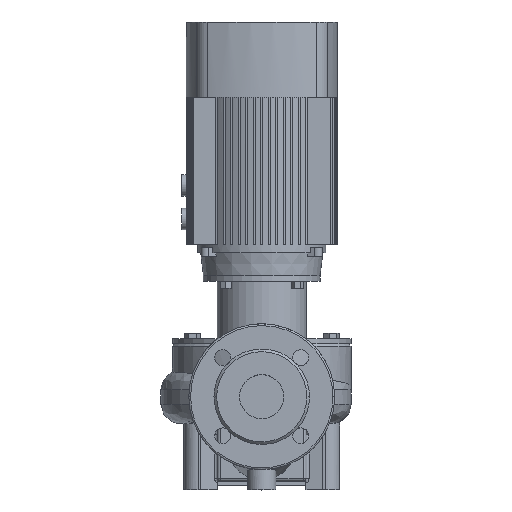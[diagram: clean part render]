
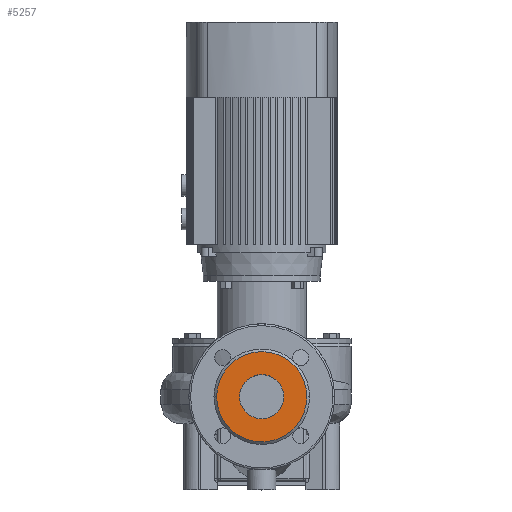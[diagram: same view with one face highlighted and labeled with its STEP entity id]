
A CAD part, top view. The second image highlights one B-rep face of the part: STEP entity #5257.
In plain terms, the highlighted planar face has unit normal (0, 0, 1).
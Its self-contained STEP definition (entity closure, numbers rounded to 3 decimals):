
#196 = CIRCLE ( 'NONE', #19956, 51. ) ;
#923 = CARTESIAN_POINT ( 'NONE',  ( 0., 51., 170. ) ) ;
#1064 = DIRECTION ( 'NONE',  ( 0., 0., -1. ) ) ;
#1304 = PLANE ( 'NONE',  #5958 ) ;
#1525 = DIRECTION ( 'NONE',  ( 1., 0., 0. ) ) ;
#1705 = EDGE_CURVE ( 'NONE', #2696, #15556, #21110, .T. ) ;
#1744 = DIRECTION ( 'NONE',  ( 1., 0., 0. ) ) ;
#1861 = AXIS2_PLACEMENT_3D ( 'NONE', #6360, #24275, #8342 ) ;
#2696 = VERTEX_POINT ( 'NONE', #5937 ) ;
#3311 = VERTEX_POINT ( 'NONE', #25979 ) ;
#3641 = DIRECTION ( 'NONE',  ( 0., 0., 1. ) ) ;
#5257 = ADVANCED_FACE ( 'NONE', ( #18839, #19215 ), #1304, .F. ) ;
#5937 = CARTESIAN_POINT ( 'NONE',  ( 25., 0., 170. ) ) ;
#5958 = AXIS2_PLACEMENT_3D ( 'NONE', #923, #1064, #15254 ) ;
#6360 = CARTESIAN_POINT ( 'NONE',  ( 0., 0., 170. ) ) ;
#7202 = CARTESIAN_POINT ( 'NONE',  ( 0., 0., 170. ) ) ;
#8173 = CIRCLE ( 'NONE', #17397, 25. ) ;
#8342 = DIRECTION ( 'NONE',  ( 1., 0., 0. ) ) ;
#8535 = ORIENTED_EDGE ( 'NONE', *, *, #1705, .F. ) ;
#8647 = EDGE_CURVE ( 'NONE', #18086, #3311, #196, .T. ) ;
#8996 = ORIENTED_EDGE ( 'NONE', *, *, #15192, .T. ) ;
#9609 = EDGE_LOOP ( 'NONE', ( #18920, #8996 ) ) ;
#11413 = CARTESIAN_POINT ( 'NONE',  ( -25., 0., 170. ) ) ;
#11522 = DIRECTION ( 'NONE',  ( 0., 0., 1. ) ) ;
#15192 = EDGE_CURVE ( 'NONE', #3311, #18086, #20793, .T. ) ;
#15254 = DIRECTION ( 'NONE',  ( -1., 0., 0. ) ) ;
#15355 = EDGE_LOOP ( 'NONE', ( #8535, #15938 ) ) ;
#15556 = VERTEX_POINT ( 'NONE', #11413 ) ;
#15938 = ORIENTED_EDGE ( 'NONE', *, *, #20197, .F. ) ;
#17397 = AXIS2_PLACEMENT_3D ( 'NONE', #24143, #22039, #1744 ) ;
#18086 = VERTEX_POINT ( 'NONE', #25433 ) ;
#18839 = FACE_BOUND ( 'NONE', #15355, .T. ) ;
#18920 = ORIENTED_EDGE ( 'NONE', *, *, #8647, .T. ) ;
#19215 = FACE_OUTER_BOUND ( 'NONE', #9609, .T. ) ;
#19956 = AXIS2_PLACEMENT_3D ( 'NONE', #7202, #3641, #21549 ) ;
#20197 = EDGE_CURVE ( 'NONE', #15556, #2696, #8173, .T. ) ;
#20793 = CIRCLE ( 'NONE', #1861, 51. ) ;
#21110 = CIRCLE ( 'NONE', #24062, 25. ) ;
#21549 = DIRECTION ( 'NONE',  ( 1., 0., 0. ) ) ;
#22039 = DIRECTION ( 'NONE',  ( 0., 0., 1. ) ) ;
#24062 = AXIS2_PLACEMENT_3D ( 'NONE', #25609, #11522, #1525 ) ;
#24143 = CARTESIAN_POINT ( 'NONE',  ( 0., 0., 170. ) ) ;
#24275 = DIRECTION ( 'NONE',  ( 0., 0., 1. ) ) ;
#25433 = CARTESIAN_POINT ( 'NONE',  ( -51., 0., 170. ) ) ;
#25609 = CARTESIAN_POINT ( 'NONE',  ( 0., 0., 170. ) ) ;
#25979 = CARTESIAN_POINT ( 'NONE',  ( 51., 0., 170. ) ) ;
